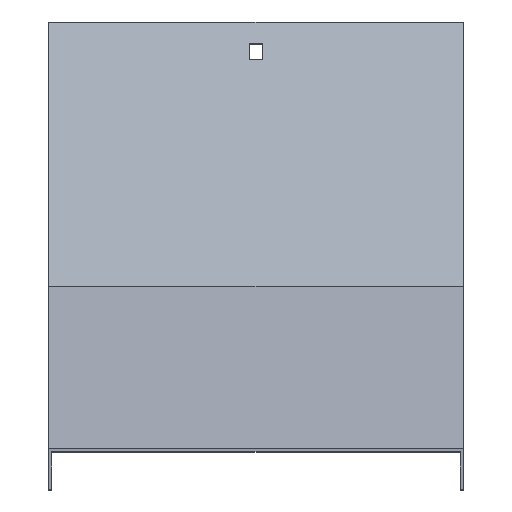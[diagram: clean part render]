
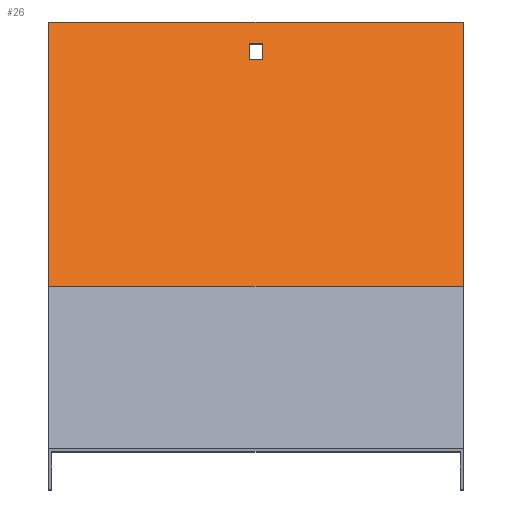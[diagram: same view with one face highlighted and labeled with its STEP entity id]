
A CAD part, top view. The second image highlights one B-rep face of the part: STEP entity #26.
In plain terms, the highlighted planar face has unit normal (0, 0.5, 0.866).
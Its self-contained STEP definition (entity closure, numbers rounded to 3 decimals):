
#3 = CARTESIAN_POINT ( 'NONE',  ( 101.5, 80.1, -288.437 ) ) ;
#4 = CARTESIAN_POINT ( 'NONE',  ( -101.5, 209.744, -363.287 ) ) ;
#26 = ADVANCED_FACE ( 'NONE', ( #673, #496 ), #807, .T. ) ;
#48 = EDGE_CURVE ( 'NONE', #436, #810, #220, .T. ) ;
#74 = CARTESIAN_POINT ( 'NONE',  ( 3.25, 199.352, -357.287 ) ) ;
#80 = DIRECTION ( 'NONE',  ( 0., 0.866, -0.5 ) ) ;
#81 = DIRECTION ( 'NONE',  ( -1., 0., 0. ) ) ;
#82 = CARTESIAN_POINT ( 'NONE',  ( 3.25, 199.352, -357.287 ) ) ;
#125 = VERTEX_POINT ( 'NONE', #82 ) ;
#129 = VECTOR ( 'NONE', #471, 1000. ) ;
#151 = CARTESIAN_POINT ( 'NONE',  ( -101.5, 80.1, -288.437 ) ) ;
#152 = CARTESIAN_POINT ( 'NONE',  ( 101.5, 80.1, -288.437 ) ) ;
#193 = ORIENTED_EDGE ( 'NONE', *, *, #445, .F. ) ;
#194 = CARTESIAN_POINT ( 'NONE',  ( 101.5, 209.744, -363.287 ) ) ;
#220 = LINE ( 'NONE', #359, #283 ) ;
#223 = EDGE_CURVE ( 'NONE', #462, #358, #690, .T. ) ;
#225 = LINE ( 'NONE', #414, #525 ) ;
#244 = VERTEX_POINT ( 'NONE', #246 ) ;
#246 = CARTESIAN_POINT ( 'NONE',  ( 101.5, 209.744, -363.287 ) ) ;
#278 = DIRECTION ( 'NONE',  ( 0., 0.5, 0.866 ) ) ;
#283 = VECTOR ( 'NONE', #535, 1000. ) ;
#291 = CARTESIAN_POINT ( 'NONE',  ( 3.25, 191.557, -352.787 ) ) ;
#301 = ORIENTED_EDGE ( 'NONE', *, *, #223, .F. ) ;
#335 = ORIENTED_EDGE ( 'NONE', *, *, #456, .F. ) ;
#351 = VECTOR ( 'NONE', #465, 1000. ) ;
#358 = VERTEX_POINT ( 'NONE', #4 ) ;
#359 = CARTESIAN_POINT ( 'NONE',  ( 3.25, 191.557, -352.787 ) ) ;
#380 = EDGE_LOOP ( 'NONE', ( #301, #589, #573, #528 ) ) ;
#385 = DIRECTION ( 'NONE',  ( 0., 0.866, -0.5 ) ) ;
#399 = EDGE_LOOP ( 'NONE', ( #193, #636, #335, #438 ) ) ;
#408 = VECTOR ( 'NONE', #81, 1000. ) ;
#412 = VECTOR ( 'NONE', #80, 1000. ) ;
#414 = CARTESIAN_POINT ( 'NONE',  ( -3.25, 191.557, -352.787 ) ) ;
#417 = LINE ( 'NONE', #291, #412 ) ;
#427 = DIRECTION ( 'NONE',  ( 0., -0.866, 0.5 ) ) ;
#436 = VERTEX_POINT ( 'NONE', #532 ) ;
#438 = ORIENTED_EDGE ( 'NONE', *, *, #550, .F. ) ;
#445 = EDGE_CURVE ( 'NONE', #810, #125, #417, .T. ) ;
#456 = EDGE_CURVE ( 'NONE', #591, #436, #225, .T. ) ;
#462 = VERTEX_POINT ( 'NONE', #151 ) ;
#465 = DIRECTION ( 'NONE',  ( -1., 0., 0. ) ) ;
#471 = DIRECTION ( 'NONE',  ( 0., 0.866, -0.5 ) ) ;
#477 = DIRECTION ( 'NONE',  ( -1., 0., 0. ) ) ;
#489 = AXIS2_PLACEMENT_3D ( 'NONE', #802, #278, #427 ) ;
#494 = EDGE_CURVE ( 'NONE', #762, #462, #667, .T. ) ;
#496 = FACE_OUTER_BOUND ( 'NONE', #380, .T. ) ;
#525 = VECTOR ( 'NONE', #601, 1000. ) ;
#528 = ORIENTED_EDGE ( 'NONE', *, *, #805, .T. ) ;
#532 = CARTESIAN_POINT ( 'NONE',  ( -3.25, 191.557, -352.787 ) ) ;
#535 = DIRECTION ( 'NONE',  ( 1., 0., 0. ) ) ;
#547 = CARTESIAN_POINT ( 'NONE',  ( -3.25, 199.352, -357.287 ) ) ;
#550 = EDGE_CURVE ( 'NONE', #125, #591, #671, .T. ) ;
#554 = VECTOR ( 'NONE', #385, 1000. ) ;
#573 = ORIENTED_EDGE ( 'NONE', *, *, #577, .T. ) ;
#577 = EDGE_CURVE ( 'NONE', #762, #244, #663, .T. ) ;
#589 = ORIENTED_EDGE ( 'NONE', *, *, #494, .F. ) ;
#591 = VERTEX_POINT ( 'NONE', #547 ) ;
#601 = DIRECTION ( 'NONE',  ( 0., -0.866, 0.5 ) ) ;
#627 = CARTESIAN_POINT ( 'NONE',  ( -101.5, 80.1, -288.437 ) ) ;
#629 = CARTESIAN_POINT ( 'NONE',  ( 101.5, 80.1, -288.437 ) ) ;
#636 = ORIENTED_EDGE ( 'NONE', *, *, #48, .F. ) ;
#663 = LINE ( 'NONE', #152, #129 ) ;
#667 = LINE ( 'NONE', #3, #790 ) ;
#671 = LINE ( 'NONE', #74, #408 ) ;
#673 = FACE_BOUND ( 'NONE', #399, .T. ) ;
#690 = LINE ( 'NONE', #627, #554 ) ;
#720 = CARTESIAN_POINT ( 'NONE',  ( 3.25, 191.557, -352.787 ) ) ;
#762 = VERTEX_POINT ( 'NONE', #629 ) ;
#784 = LINE ( 'NONE', #194, #351 ) ;
#790 = VECTOR ( 'NONE', #477, 1000. ) ;
#802 = CARTESIAN_POINT ( 'NONE',  ( 101.5, 80.1, -288.437 ) ) ;
#805 = EDGE_CURVE ( 'NONE', #244, #358, #784, .T. ) ;
#807 = PLANE ( 'NONE',  #489 ) ;
#810 = VERTEX_POINT ( 'NONE', #720 ) ;
